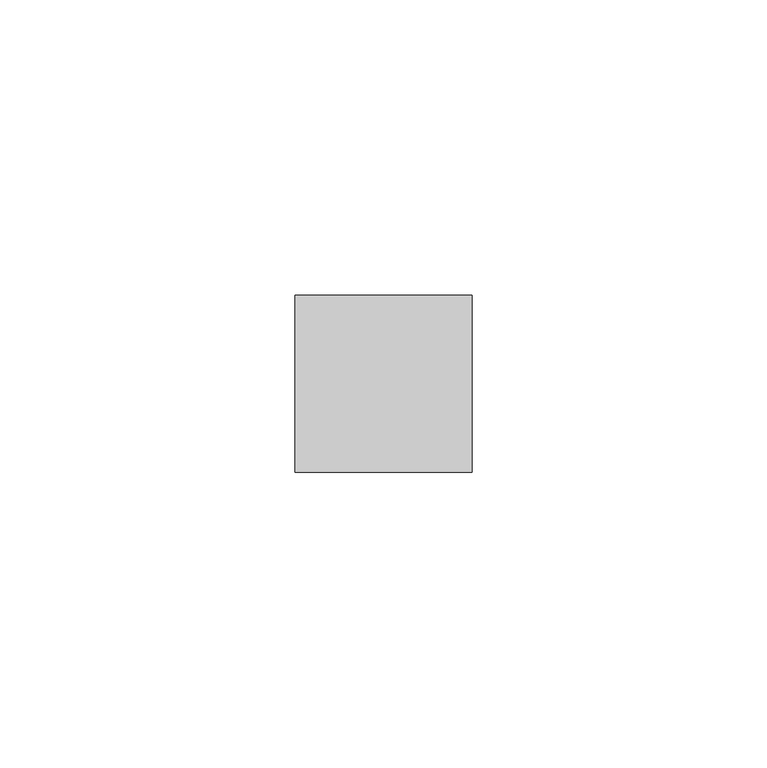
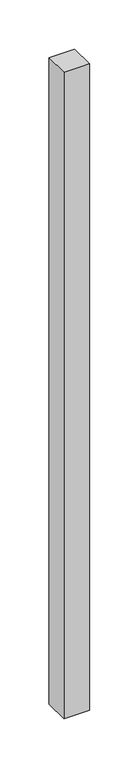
"""IFC4 building model written with IfcOpenShell, lengths in millimetres: member geometry, 矩形竖梃 : 30mm 正方形."""

import ifcopenshell
import ifcopenshell.guid

model = None  # the IFC model being written
_history = None  # IfcOwnerHistory: only IFC2X3 demands one
_inside = {}  # id of a spatial element -> (the spatial element, [elements in it])
_under = {}  # id of a project, library or spatial element -> (it, [spatial elements below it])
_declared = {}  # id of a project -> (the project, [libraries it declares])
_typed = {}  # id of a type object -> (the type object, [elements of that type])
_made_of = {}  # id of a material, layer set ... -> (it, [elements and type objects made of it])


def new_model(schema):
    """Start an empty IFC model of exactly this schema.

    Asked for "IFC4X3", IfcOpenShell would pick the latest addendum, in which some entities
    have other attributes; the version numbers below select the first issue.
    IFC2X3 requires an IfcOwnerHistory on every rooted entity: one is made here for all.
    """
    global model, _history
    if schema == "IFC4X3":
        model = ifcopenshell.file(schema_version=(4, 3, 0, 0))
    else:
        model = ifcopenshell.file(schema=schema)
    _inside.clear()
    _under.clear()
    _declared.clear()
    _typed.clear()
    _made_of.clear()
    _history = None
    if model.schema == "IFC2X3":
        org = make("IfcOrganization", Name="unknown")
        user = make(
            "IfcPersonAndOrganization",
            ThePerson=make("IfcPerson", FamilyName="unknown"),
            TheOrganization=org,
        )
        app = make(
            "IfcApplication",
            ApplicationDeveloper=org,
            Version="unknown",
            ApplicationFullName="unknown",
            ApplicationIdentifier="unknown",
        )
        _history = make(
            "IfcOwnerHistory",
            OwningUser=user,
            OwningApplication=app,
            ChangeAction="ADDED",
            CreationDate=0,
        )
    return model


def make(cls, **values):
    """One entity of the class cls with the attributes given. An attribute that is None is left unset."""
    return model.create_entity(
        cls, **{name: value for name, value in values.items() if value is not None}
    )


def rooted(cls, **values):
    """An entity with a GlobalId (a new one), such as an element, a storey or a relation."""
    return make(cls, GlobalId=ifcopenshell.guid.new(), OwnerHistory=_history, **values)


def si_unit(unit_type, name, prefix=None):
    """IfcSIUnit, for example si_unit("LENGTHUNIT", "METRE", prefix="MILLI")."""
    return make("IfcSIUnit", UnitType=unit_type, Prefix=prefix, Name=name)


def assignment(units):
    """IfcUnitAssignment: the units of a project."""
    return None if units is None else make("IfcUnitAssignment", Units=units)


def point(xyz):
    """IfcCartesianPoint."""
    return None if xyz is None else make("IfcCartesianPoint", Coordinates=xyz)


def direction(xyz):
    """IfcDirection."""
    return None if xyz is None else make("IfcDirection", DirectionRatios=xyz)


def frame(location, z_axis=None, x_axis=None):
    """IfcAxis2Placement3D, a coordinate frame: its origin and axes. An axis left out is left unset."""
    return make(
        "IfcAxis2Placement3D",
        Location=point(location),
        Axis=direction(z_axis),
        RefDirection=direction(x_axis),
    )


def origin():
    """The frame at (0, 0, 0) with its axes left unset."""
    return frame((0.0, 0.0, 0.0))


def place(relative_to, where):
    """IfcLocalPlacement: puts the frame where relative to a parent placement (None: the world)."""
    return make(
        "IfcLocalPlacement", PlacementRelTo=relative_to, RelativePlacement=where
    )


def context(
    kind, dimensions, precision=None, world=None, true_north=None, identifier=None
):
    """IfcGeometricRepresentationContext, for example the 3D "Model" context."""
    return make(
        "IfcGeometricRepresentationContext",
        ContextIdentifier=identifier,
        ContextType=kind,
        CoordinateSpaceDimension=dimensions,
        Precision=precision,
        WorldCoordinateSystem=world,
        TrueNorth=true_north,
    )


def project(units=None, contexts=None):
    """IfcProject with its units and contexts."""
    return rooted(
        "IfcProject",
        Name="project",
        RepresentationContexts=contexts,
        UnitsInContext=assignment(units),
    )


def spatial(cls, under=None, at=None, **own):
    """A site, building, storey or space (cls), placed at a placement, below another one or the project."""
    s = rooted(cls, ObjectPlacement=at, **own)
    if under is not None:
        _under.setdefault(under.id(), (under, []))[1].append(s)
    return s


def polyline(points):
    """IfcPolyline through the points."""
    return make("IfcPolyline", Points=[point(p) for p in points])


def outline(outer, holes=None, kind="AREA"):
    """IfcArbitraryClosedProfileDef: a profile drawn as a closed curve; with holes, ...WithVoids."""
    if holes is None:
        return make("IfcArbitraryClosedProfileDef", ProfileType=kind, OuterCurve=outer)
    return make(
        "IfcArbitraryProfileDefWithVoids",
        ProfileType=kind,
        OuterCurve=outer,
        InnerCurves=holes,
    )


def extrude(swept, where, along, depth):
    """IfcExtrudedAreaSolid: the profile swept, set in the frame where, extruded along a direction by depth."""
    return make(
        "IfcExtrudedAreaSolid",
        SweptArea=swept,
        Position=where,
        ExtrudedDirection=direction(along),
        Depth=depth,
    )


def shape(context_of_items, identifier, shape_type, items):
    """IfcShapeRepresentation: the items that make up one representation, for example the "Body"."""
    return make(
        "IfcShapeRepresentation",
        ContextOfItems=context_of_items,
        RepresentationIdentifier=identifier,
        RepresentationType=shape_type,
        Items=items,
    )


def source(mapping_origin, context_of_items, identifier, shape_type, items):
    """IfcRepresentationMap: a shape defined once, which mapped items show again and again."""
    return make(
        "IfcRepresentationMap",
        MappingOrigin=mapping_origin,
        MappedRepresentation=shape(context_of_items, identifier, shape_type, items),
    )


def transform(
    local_origin,
    x_axis=None,
    y_axis=None,
    z_axis=None,
    scale=None,
    scale2=None,
    scale3=None,
    uniform=True,
):
    """IfcCartesianTransformationOperator3D, or its non-uniform kind. x_axis, y_axis, z_axis: its Axis1, 2, 3."""
    if uniform:
        return make(
            "IfcCartesianTransformationOperator3D",
            Axis1=direction(x_axis),
            Axis2=direction(y_axis),
            LocalOrigin=point(local_origin),
            Scale=scale,
            Axis3=direction(z_axis),
        )
    return make(
        "IfcCartesianTransformationOperator3DnonUniform",
        Axis1=direction(x_axis),
        Axis2=direction(y_axis),
        LocalOrigin=point(local_origin),
        Scale=scale,
        Axis3=direction(z_axis),
        Scale2=scale2,
        Scale3=scale3,
    )


def mapped(mapping_source, mapping_target):
    """IfcMappedItem: shows the shape of a source again, moved by a transform."""
    return make(
        "IfcMappedItem", MappingSource=mapping_source, MappingTarget=mapping_target
    )


def made_of(thing, what):
    """Note that an element or type object is made of a material, layer set ...; save() writes the relation."""
    if what is not None:
        _made_of.setdefault(what.id(), (what, []))[1].append(thing)
    return thing


def element(
    cls,
    number,
    at=None,
    inside=None,
    cuts=None,
    type_object=None,
    material=None,
    context=None,
    identifier="Body",
    shape_type=None,
    held_by="IfcProductDefinitionShape",
    body=None,
    shapes=None,
    **own,
):
    """One element of the class cls, such as IfcWall. Its Tag is "e" and its number.

    at: its placement. inside: the storey or other place that contains it. cuts: it is an
    opening in that element (IfcRelVoidsElement). A single representation is given by context,
    identifier, shape_type and body (its items); several are given by shapes. held_by: the class
    of the entity that holds the representations. save() writes the other relations.
    """
    e = rooted(cls, Tag="e%d" % number, ObjectPlacement=at, **own)
    if body is not None:
        shapes = [shape(context, identifier, shape_type, body)]
    if shapes is not None:
        e.Representation = make(held_by, Representations=shapes)
    if inside is not None:
        _inside.setdefault(inside.id(), (inside, []))[1].append(e)
    if cuts is not None:
        rooted(
            "IfcRelVoidsElement", RelatingBuildingElement=cuts, RelatedOpeningElement=e
        )
    if type_object is not None:
        _typed.setdefault(type_object.id(), (type_object, []))[1].append(e)
    return made_of(e, material)


def aggregate(whole, parts):
    """IfcRelAggregates: a whole, such as a stair, and the parts it consists of."""
    return rooted("IfcRelAggregates", RelatingObject=whole, RelatedObjects=parts)


def save(model, path):
    """Write the relations noted so far, then the file.

    IfcRelAggregates (storeys below a building ...), IfcRelContainedInSpatialStructure (elements
    in a storey), IfcRelDefinesByType, IfcRelAssociatesMaterial and IfcRelDeclares: one each for
    every whole, place, type object, material and project.
    """
    for whole, parts in _under.values():
        aggregate(whole, parts)
    for where, things in _inside.values():
        rooted(
            "IfcRelContainedInSpatialStructure",
            RelatedElements=things,
            RelatingStructure=where,
        )
    for kind, things in _typed.values():
        rooted("IfcRelDefinesByType", RelatedObjects=things, RelatingType=kind)
    for what, things in _made_of.values():
        rooted("IfcRelAssociatesMaterial", RelatedObjects=things, RelatingMaterial=what)
    for by, libraries in _declared.values():
        rooted("IfcRelDeclares", RelatingContext=by, RelatedDefinitions=libraries)
    model.write(path)


def member_f9daae58(model_context):
    return source(origin(), model_context, "Body", "SweptSolid", [
        extrude(outline(polyline([(15.0, 15.0), (15.0, -15.0), (-15.0, -15.0), (-15.0, 15.0), (15.0, 15.0)])), frame((0.0, 0.0, -800.0), z_axis=(0.0, 0.0, 1.0), x_axis=(1.0, 0.0, 0.0)), (0.0, 0.0, 1.0), 800.0),
    ])


if __name__ == "__main__":
    model = new_model("IFC4")
    model_context = context("Model", 3, world=origin())
    ifc_project = project(units=[si_unit("LENGTHUNIT", "METRE", prefix="MILLI")], contexts=[model_context])
    site = spatial("IfcSite", under=ifc_project)
    building = spatial("IfcBuilding", under=site)
    placement = place(None, origin())
    member_shape = member_f9daae58(model_context)
    element("IfcMember", 1, ObjectType="矩形竖梃 : 30mm 正方形", at=placement, inside=building, context=model_context, shape_type="MappedRepresentation", body=[
        mapped(member_shape, transform((0.0, 0.0, 0.0), x_axis=(1.0, 0.0, 0.0), y_axis=(0.0, 1.0, 0.0), z_axis=(0.0, 0.0, 1.0))),
    ])
    save(model, "model.ifc")
